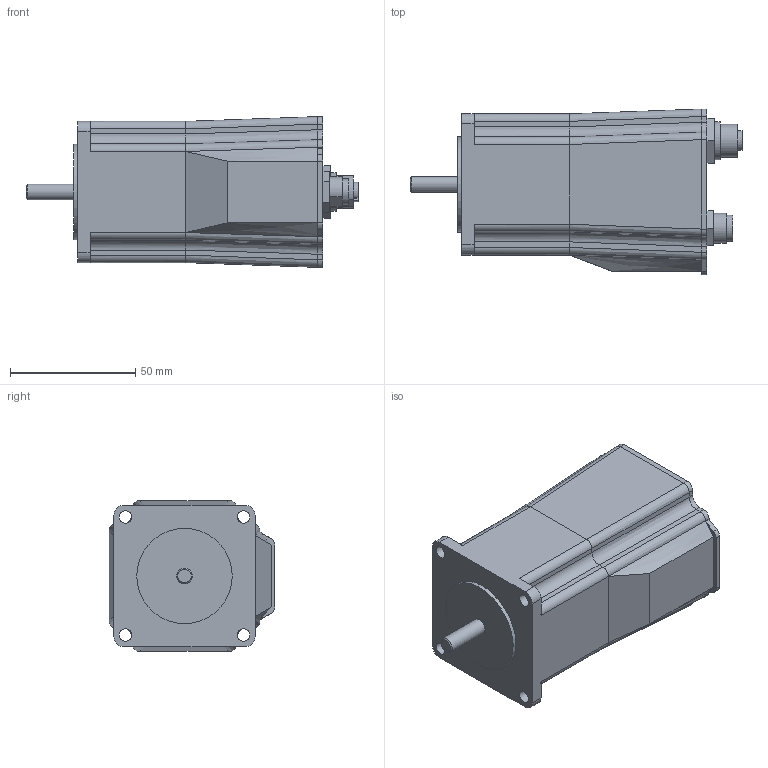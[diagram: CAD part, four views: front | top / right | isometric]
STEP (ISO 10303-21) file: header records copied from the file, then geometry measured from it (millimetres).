
FILE_DESCRIPTION( ( '' ), '1' );
FILE_NAME( 'T:/CAD/JVL/Opgave 2/LT0094-10GB.stp', '2007-10-09T08:34:41', ( 'Jørgen Vinther' ), ( 'www.stream-design.com' ), 'XStep 1.0', 'Solid edge V19', ' ' );
FILE_SCHEMA( ( 'CONFIG_CONTROL_DESIGN' ) );
Length unit declared in the file: millimetre
Products named in the file (1): 1
Bounding box: 132.6 x 66.2 x 60.2 mm (x, y, z)
Volume: 304927.9 mm3; surface area: 30563.6 mm2
Topology: 1 solids, 1 shells, 150 faces, 367 edges, 237 vertices
Faces by surface type: plane 85, cylinder 50, bspline 14, cone 1
Full cylindrical faces by diameter (mm): 1 x8, 5 x4, 6.35 x1, 8.5 x1, 10.4 x1, 15.2 x1, 38.1 x1
Entity records: 6040 total; most frequent: CARTESIAN_POINT 2670, ORIENTED_EDGE 688, DIRECTION 620, EDGE_CURVE 344, VERTEX_POINT 232, AXIS2_PLACEMENT_3D 214, EDGE_LOOP 194, LINE 192
